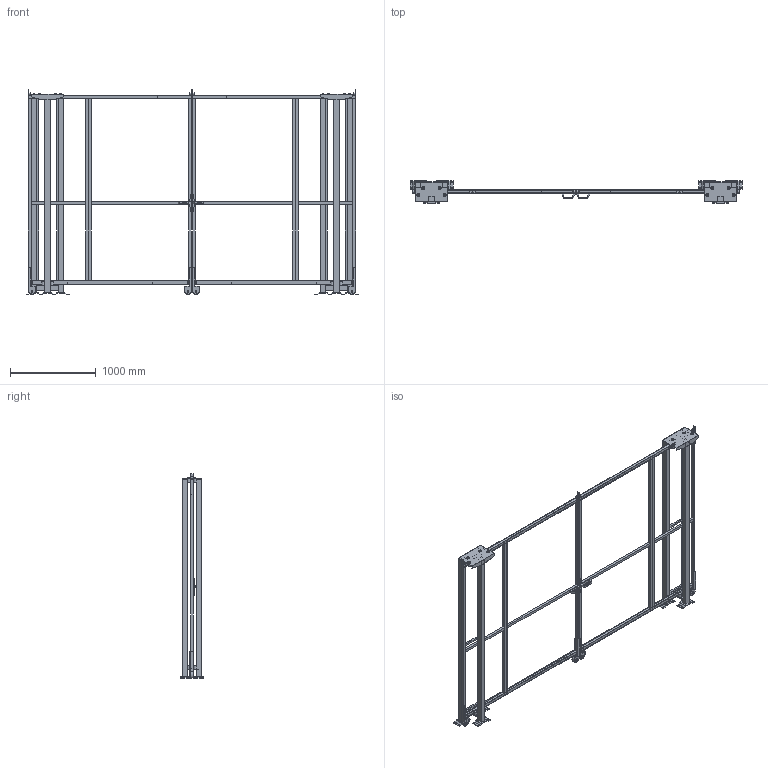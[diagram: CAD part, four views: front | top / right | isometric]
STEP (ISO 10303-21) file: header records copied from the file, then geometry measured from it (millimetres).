
FILE_DESCRIPTION(/* description */ (''),/* implementation_level */ '2;1');
FILE_NAME(/* name */ 'C:\SafeGuarding\ELABORATI\KLADKA2KR_2025-03-25-10-37-10.stp',/* time_stamp */ '2025-03-25T10:37:13+01:00',/* author */ ('admin'),/* organization */ (''),/* preprocessor_version */ 'ST-DEVELOPER v18.1',/* originating_system */ 'AutoCAD Mechanical',/* authorisation */ '');
FILE_SCHEMA (('AUTOMOTIVE_DESIGN { 1 0 10303 214 3 1 1 }'));
Length unit declared in the file: millimetre
Products named in the file (6): Product; R_VFPA.REPE30.07002200; R_VFPA.REPE30.12002200; P_VFMA.V360SDU.2320; R_VFPA.REPE20.02502200; P_VFMA.V260SDU.2320
Assembly tree (12 placements, depth 2):
  Product
    R_VFPA.REPE30.07002200  x2
    R_VFPA.REPE30.12002200  x2
    P_VFMA.V360SDU.2320  x2
    P_VFMA.V260SDU.2320  x4
    R_VFPA.REPE20.02502200  x2
Bounding box: 3871.36 x 264 x 2390.02 mm (x, y, z)
Volume: 85928353.5 mm3; surface area: 12044047.5 mm2
Topology: 108 solids, 130 shells, 946 faces, 2945 edges, 3013 vertices
Faces by surface type: plane 870, cylinder 76
Full cylindrical faces by diameter (mm): 9 x8, 11 x24, 13 x8, 14 x4, 30 x12, 36 x16, 80 x4
Entity records: 25099 total; most frequent: CARTESIAN_POINT 5342, DIRECTION 3832, ORIENTED_EDGE 3524, EDGE_CURVE 1860, LINE 1774, VECTOR 1774, VERTEX_POINT 1320, AXIS2_PLACEMENT_3D 1029
